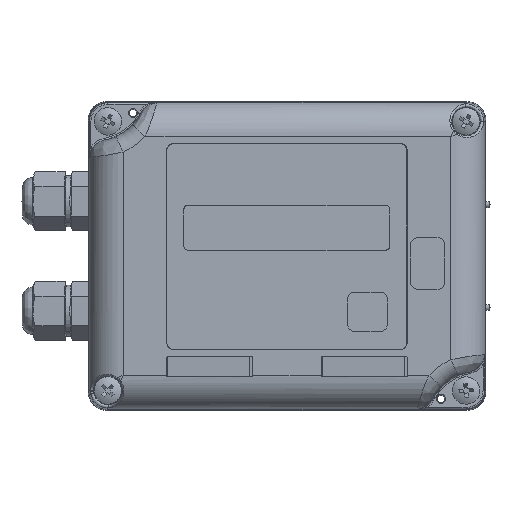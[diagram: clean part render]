
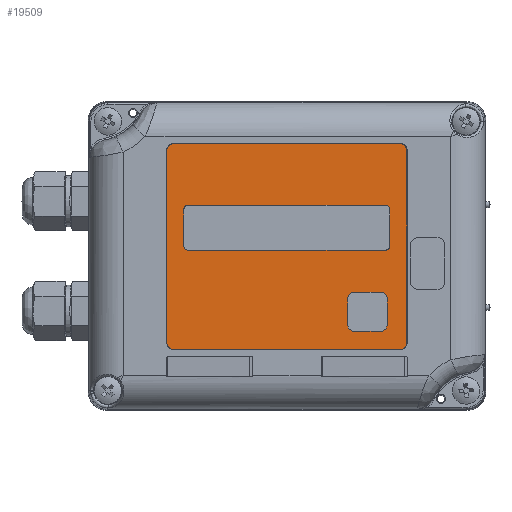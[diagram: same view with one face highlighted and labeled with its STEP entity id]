
A CAD part, top view. The second image highlights one B-rep face of the part: STEP entity #19509.
In plain terms, the highlighted planar face has unit normal (0, 0, 1).
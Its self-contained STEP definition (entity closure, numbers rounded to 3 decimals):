
#19509=ADVANCED_FACE('',(#56069,#56071,#56073),#56075,.T.);
#56069=FACE_BOUND('',#56070,.T.);
#56070=EDGE_LOOP('',(#68165,#68166,#68167,#68168,#68169,#68170,#68171,#68172));
#56071=FACE_BOUND('',#56072,.T.);
#56072=EDGE_LOOP('',(#68173,#68174,#68175,#68176,#68177,#68178,#68179,#68180));
#56073=FACE_BOUND('',#56074,.T.);
#56074=EDGE_LOOP('',(#68181,#68182,#68183,#68184,#68185,#68186,#68187,#68188));
#56075=PLANE('',#56076);
#56076=AXIS2_PLACEMENT_3D('',#56077,#56078,#56079);
#56077=CARTESIAN_POINT('',(-0.041,2.709,119.3));
#56078=DIRECTION('',(0.,0.,1.));
#56079=DIRECTION('',(-1.,0.,0.));
#68165=ORIENTED_EDGE('',*,*,#74262,.F.);
#68166=ORIENTED_EDGE('',*,*,#74263,.T.);
#68167=ORIENTED_EDGE('',*,*,#74264,.F.);
#68168=ORIENTED_EDGE('',*,*,#74265,.T.);
#68169=ORIENTED_EDGE('',*,*,#74266,.F.);
#68170=ORIENTED_EDGE('',*,*,#74267,.T.);
#68171=ORIENTED_EDGE('',*,*,#74268,.F.);
#68172=ORIENTED_EDGE('',*,*,#74269,.T.);
#68173=ORIENTED_EDGE('',*,*,#74270,.F.);
#68174=ORIENTED_EDGE('',*,*,#74271,.T.);
#68175=ORIENTED_EDGE('',*,*,#74272,.F.);
#68176=ORIENTED_EDGE('',*,*,#74273,.T.);
#68177=ORIENTED_EDGE('',*,*,#74274,.F.);
#68178=ORIENTED_EDGE('',*,*,#74275,.T.);
#68179=ORIENTED_EDGE('',*,*,#74276,.F.);
#68180=ORIENTED_EDGE('',*,*,#74277,.T.);
#68181=ORIENTED_EDGE('',*,*,#74278,.F.);
#68182=ORIENTED_EDGE('',*,*,#74279,.T.);
#68183=ORIENTED_EDGE('',*,*,#74280,.F.);
#68184=ORIENTED_EDGE('',*,*,#74281,.T.);
#68185=ORIENTED_EDGE('',*,*,#74282,.F.);
#68186=ORIENTED_EDGE('',*,*,#74283,.T.);
#68187=ORIENTED_EDGE('',*,*,#74284,.F.);
#68188=ORIENTED_EDGE('',*,*,#74285,.T.);
#74262=EDGE_CURVE('',#82754,#82755,#82756,.F.);
#74263=EDGE_CURVE('',#82754,#82757,#82758,.T.);
#74264=EDGE_CURVE('',#82759,#82757,#82760,.F.);
#74265=EDGE_CURVE('',#82759,#82761,#82762,.T.);
#74266=EDGE_CURVE('',#82763,#82761,#82764,.F.);
#74267=EDGE_CURVE('',#82763,#82765,#82766,.T.);
#74268=EDGE_CURVE('',#82767,#82765,#82768,.F.);
#74269=EDGE_CURVE('',#82767,#82755,#82769,.T.);
#74270=EDGE_CURVE('',#82770,#82771,#82772,.F.);
#74271=EDGE_CURVE('',#82770,#82773,#82774,.F.);
#74272=EDGE_CURVE('',#82775,#82773,#82776,.F.);
#74273=EDGE_CURVE('',#82775,#82777,#82778,.F.);
#74274=EDGE_CURVE('',#82779,#82777,#82780,.F.);
#74275=EDGE_CURVE('',#82779,#82781,#82782,.F.);
#74276=EDGE_CURVE('',#82783,#82781,#82784,.F.);
#74277=EDGE_CURVE('',#82783,#82771,#82785,.F.);
#74278=EDGE_CURVE('',#82786,#82787,#82788,.F.);
#74279=EDGE_CURVE('',#82786,#82789,#82790,.F.);
#74280=EDGE_CURVE('',#82791,#82789,#82792,.F.);
#74281=EDGE_CURVE('',#82791,#82793,#82794,.F.);
#74282=EDGE_CURVE('',#82795,#82793,#82796,.F.);
#74283=EDGE_CURVE('',#82795,#82797,#82798,.F.);
#74284=EDGE_CURVE('',#82799,#82797,#82800,.F.);
#74285=EDGE_CURVE('',#82799,#82787,#82801,.F.);
#82754=VERTEX_POINT('',#161540);
#82755=VERTEX_POINT('',#161541);
#82756=CIRCLE('',#161542,2.);
#82757=VERTEX_POINT('',#161546);
#82758=LINE('',#161547,#161548);
#82759=VERTEX_POINT('',#161550);
#82760=CIRCLE('',#161551,2.);
#82761=VERTEX_POINT('',#161555);
#82762=LINE('',#161556,#161557);
#82763=VERTEX_POINT('',#161559);
#82764=CIRCLE('',#161560,2.);
#82765=VERTEX_POINT('',#161564);
#82766=LINE('',#161565,#161566);
#82767=VERTEX_POINT('',#161568);
#82768=CIRCLE('',#161569,2.);
#82769=LINE('',#161573,#161574);
#82770=VERTEX_POINT('',#161576);
#82771=VERTEX_POINT('',#161577);
#82772=CIRCLE('',#161578,2.);
#82773=VERTEX_POINT('',#161582);
#82774=LINE('',#161583,#161584);
#82775=VERTEX_POINT('',#161586);
#82776=CIRCLE('',#161587,2.);
#82777=VERTEX_POINT('',#161591);
#82778=LINE('',#161592,#161593);
#82779=VERTEX_POINT('',#161595);
#82780=CIRCLE('',#161596,2.);
#82781=VERTEX_POINT('',#161600);
#82782=LINE('',#161601,#161602);
#82783=VERTEX_POINT('',#161604);
#82784=CIRCLE('',#161605,2.);
#82785=LINE('',#161609,#161610);
#82786=VERTEX_POINT('',#161612);
#82787=VERTEX_POINT('',#161613);
#82788=CIRCLE('',#161614,1.);
#82789=VERTEX_POINT('',#161618);
#82790=LINE('',#161619,#161620);
#82791=VERTEX_POINT('',#161622);
#82792=CIRCLE('',#161623,1.);
#82793=VERTEX_POINT('',#161627);
#82794=LINE('',#161628,#161629);
#82795=VERTEX_POINT('',#161631);
#82796=CIRCLE('',#161632,1.);
#82797=VERTEX_POINT('',#161636);
#82798=LINE('',#161637,#161638);
#82799=VERTEX_POINT('',#161640);
#82800=CIRCLE('',#161641,1.);
#82801=LINE('',#161645,#161646);
#161540=CARTESIAN_POINT('',(-33.041,-27.291,119.3));
#161541=CARTESIAN_POINT('',(-35.041,-25.291,119.3));
#161542=AXIS2_PLACEMENT_3D('',#161543,#161544,#161545);
#161543=CARTESIAN_POINT('',(-33.041,-25.291,119.3));
#161544=DIRECTION('',(0.,0.,1.));
#161545=DIRECTION('',(-1.,0.,0.));
#161546=CARTESIAN_POINT('',(32.959,-27.291,119.3));
#161547=CARTESIAN_POINT('',(-33.041,-27.291,119.3));
#161548=VECTOR('',#161549,1.);
#161549=DIRECTION('',(1.,0.,0.));
#161550=CARTESIAN_POINT('',(34.959,-25.291,119.3));
#161551=AXIS2_PLACEMENT_3D('',#161552,#161553,#161554);
#161552=CARTESIAN_POINT('',(32.959,-25.291,119.3));
#161553=DIRECTION('',(0.,0.,1.));
#161554=DIRECTION('',(0.,-1.,0.));
#161555=CARTESIAN_POINT('',(34.959,30.709,119.3));
#161556=CARTESIAN_POINT('',(34.959,-25.291,119.3));
#161557=VECTOR('',#161558,1.);
#161558=DIRECTION('',(0.,1.,0.));
#161559=CARTESIAN_POINT('',(32.959,32.709,119.3));
#161560=AXIS2_PLACEMENT_3D('',#161561,#161562,#161563);
#161561=CARTESIAN_POINT('',(32.959,30.709,119.3));
#161562=DIRECTION('',(0.,0.,1.));
#161563=DIRECTION('',(1.,0.,0.));
#161564=CARTESIAN_POINT('',(-33.041,32.709,119.3));
#161565=CARTESIAN_POINT('',(32.959,32.709,119.3));
#161566=VECTOR('',#161567,1.);
#161567=DIRECTION('',(-1.,0.,0.));
#161568=CARTESIAN_POINT('',(-35.041,30.709,119.3));
#161569=AXIS2_PLACEMENT_3D('',#161570,#161571,#161572);
#161570=CARTESIAN_POINT('',(-33.041,30.709,119.3));
#161571=DIRECTION('',(0.,0.,1.));
#161572=DIRECTION('',(0.,1.,0.));
#161573=CARTESIAN_POINT('',(-35.041,30.709,119.3));
#161574=VECTOR('',#161575,1.);
#161575=DIRECTION('',(0.,-1.,0.));
#161576=CARTESIAN_POINT('',(19.709,-10.541,119.3));
#161577=CARTESIAN_POINT('',(17.709,-12.541,119.3));
#161578=AXIS2_PLACEMENT_3D('',#161579,#161580,#161581);
#161579=CARTESIAN_POINT('',(19.709,-12.541,119.3));
#161580=DIRECTION('',(-0.,0.,-1.));
#161581=DIRECTION('',(-1.,0.,0.));
#161582=CARTESIAN_POINT('',(27.209,-10.541,119.3));
#161583=CARTESIAN_POINT('',(27.209,-10.541,119.3));
#161584=VECTOR('',#161585,1.);
#161585=DIRECTION('',(-1.,0.,0.));
#161586=CARTESIAN_POINT('',(29.209,-12.541,119.3));
#161587=AXIS2_PLACEMENT_3D('',#161588,#161589,#161590);
#161588=CARTESIAN_POINT('',(27.209,-12.541,119.3));
#161589=DIRECTION('',(0.,-0.,-1.));
#161590=DIRECTION('',(0.,1.,0.));
#161591=CARTESIAN_POINT('',(29.209,-20.041,119.3));
#161592=CARTESIAN_POINT('',(29.209,-20.041,119.3));
#161593=VECTOR('',#161594,1.);
#161594=DIRECTION('',(0.,1.,0.));
#161595=CARTESIAN_POINT('',(27.209,-22.041,119.3));
#161596=AXIS2_PLACEMENT_3D('',#161597,#161598,#161599);
#161597=CARTESIAN_POINT('',(27.209,-20.041,119.3));
#161598=DIRECTION('',(0.,-0.,-1.));
#161599=DIRECTION('',(1.,0.,0.));
#161600=CARTESIAN_POINT('',(19.709,-22.041,119.3));
#161601=CARTESIAN_POINT('',(19.709,-22.041,119.3));
#161602=VECTOR('',#161603,1.);
#161603=DIRECTION('',(1.,0.,0.));
#161604=CARTESIAN_POINT('',(17.709,-20.041,119.3));
#161605=AXIS2_PLACEMENT_3D('',#161606,#161607,#161608);
#161606=CARTESIAN_POINT('',(19.709,-20.041,119.3));
#161607=DIRECTION('',(-0.,0.,-1.));
#161608=DIRECTION('',(0.,-1.,0.));
#161609=CARTESIAN_POINT('',(17.709,-12.541,119.3));
#161610=VECTOR('',#161611,1.);
#161611=DIRECTION('',(0.,-1.,0.));
#161612=CARTESIAN_POINT('',(-29.041,14.709,119.3));
#161613=CARTESIAN_POINT('',(-30.041,13.709,119.3));
#161614=AXIS2_PLACEMENT_3D('',#161615,#161616,#161617);
#161615=CARTESIAN_POINT('',(-29.041,13.709,119.3));
#161616=DIRECTION('',(0.,-0.,-1.));
#161617=DIRECTION('',(-1.,0.,0.));
#161618=CARTESIAN_POINT('',(28.959,14.709,119.3));
#161619=CARTESIAN_POINT('',(28.959,14.709,119.3));
#161620=VECTOR('',#161621,1.);
#161621=DIRECTION('',(-1.,0.,0.));
#161622=CARTESIAN_POINT('',(29.959,13.709,119.3));
#161623=AXIS2_PLACEMENT_3D('',#161624,#161625,#161626);
#161624=CARTESIAN_POINT('',(28.959,13.709,119.3));
#161625=DIRECTION('',(0.,-0.,-1.));
#161626=DIRECTION('',(0.,1.,0.));
#161627=CARTESIAN_POINT('',(29.959,2.709,119.3));
#161628=CARTESIAN_POINT('',(29.959,2.709,119.3));
#161629=VECTOR('',#161630,1.);
#161630=DIRECTION('',(0.,1.,0.));
#161631=CARTESIAN_POINT('',(28.959,1.709,119.3));
#161632=AXIS2_PLACEMENT_3D('',#161633,#161634,#161635);
#161633=CARTESIAN_POINT('',(28.959,2.709,119.3));
#161634=DIRECTION('',(0.,-0.,-1.));
#161635=DIRECTION('',(1.,0.,0.));
#161636=CARTESIAN_POINT('',(-29.041,1.709,119.3));
#161637=CARTESIAN_POINT('',(-29.041,1.709,119.3));
#161638=VECTOR('',#161639,1.);
#161639=DIRECTION('',(1.,0.,0.));
#161640=CARTESIAN_POINT('',(-30.041,2.709,119.3));
#161641=AXIS2_PLACEMENT_3D('',#161642,#161643,#161644);
#161642=CARTESIAN_POINT('',(-29.041,2.709,119.3));
#161643=DIRECTION('',(-0.,0.,-1.));
#161644=DIRECTION('',(0.,-1.,0.));
#161645=CARTESIAN_POINT('',(-30.041,13.709,119.3));
#161646=VECTOR('',#161647,1.);
#161647=DIRECTION('',(0.,-1.,0.));
